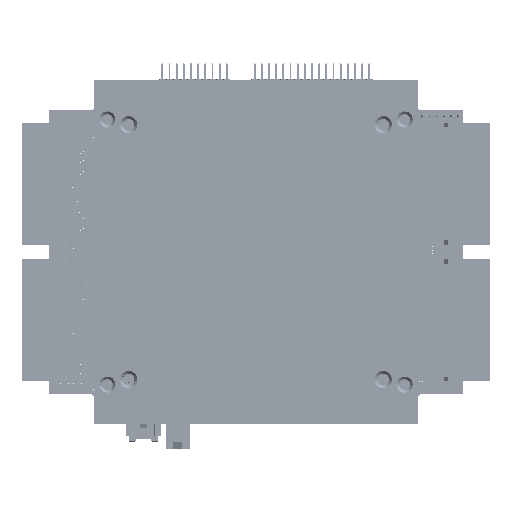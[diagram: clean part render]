
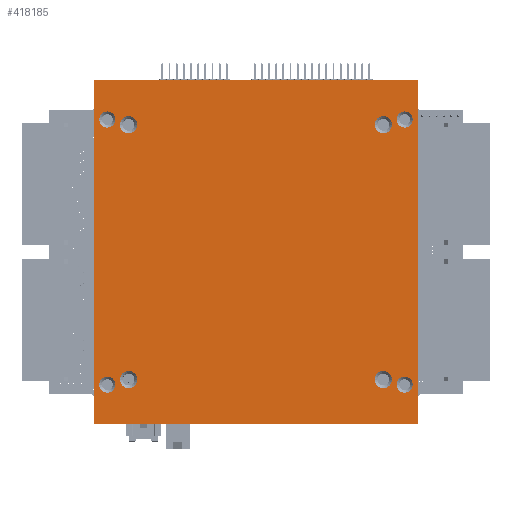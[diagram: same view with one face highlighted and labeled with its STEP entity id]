
A CAD part, top view. The second image highlights one B-rep face of the part: STEP entity #418185.
In plain terms, the highlighted planar face has unit normal (0, 0, 1).
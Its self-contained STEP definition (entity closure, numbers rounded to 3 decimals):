
#416386=CARTESIAN_POINT('',(3.581,84.95,12.7));
#416387=DIRECTION('',(0.,0.,-1.));
#416388=DIRECTION('',(1.,0.,0.));
#416389=AXIS2_PLACEMENT_3D('',#416386,#416387,#416388);
#416391=CARTESIAN_POINT('',(3.581,84.95,12.7));
#416392=DIRECTION('',(0.,0.,-1.));
#416393=DIRECTION('',(-1.,0.,0.));
#416394=AXIS2_PLACEMENT_3D('',#416391,#416392,#416393);
#416396=CARTESIAN_POINT('',(86.581,84.95,12.7));
#416397=DIRECTION('',(0.,0.,-1.));
#416398=DIRECTION('',(1.,0.,0.));
#416399=AXIS2_PLACEMENT_3D('',#416396,#416397,#416398);
#416401=CARTESIAN_POINT('',(86.581,84.95,12.7));
#416402=DIRECTION('',(0.,0.,-1.));
#416403=DIRECTION('',(-1.,0.,0.));
#416404=AXIS2_PLACEMENT_3D('',#416401,#416402,#416403);
#416406=CARTESIAN_POINT('',(80.636,83.5,12.7));
#416407=DIRECTION('',(0.,0.,-1.));
#416408=DIRECTION('',(1.,0.,0.));
#416409=AXIS2_PLACEMENT_3D('',#416406,#416407,#416408);
#416411=CARTESIAN_POINT('',(80.636,83.5,12.7));
#416412=DIRECTION('',(0.,0.,-1.));
#416413=DIRECTION('',(-1.,0.,0.));
#416414=AXIS2_PLACEMENT_3D('',#416411,#416412,#416413);
#416416=CARTESIAN_POINT('',(86.581,10.95,12.7));
#416417=DIRECTION('',(0.,0.,-1.));
#416418=DIRECTION('',(1.,0.,0.));
#416419=AXIS2_PLACEMENT_3D('',#416416,#416417,#416418);
#416421=CARTESIAN_POINT('',(86.581,10.95,12.7));
#416422=DIRECTION('',(0.,0.,-1.));
#416423=DIRECTION('',(-1.,0.,0.));
#416424=AXIS2_PLACEMENT_3D('',#416421,#416422,#416423);
#416426=CARTESIAN_POINT('',(80.636,12.38,12.7));
#416427=DIRECTION('',(0.,0.,-1.));
#416428=DIRECTION('',(1.,0.,0.));
#416429=AXIS2_PLACEMENT_3D('',#416426,#416427,#416428);
#416431=CARTESIAN_POINT('',(80.636,12.38,12.7));
#416432=DIRECTION('',(0.,0.,-1.));
#416433=DIRECTION('',(-1.,0.,0.));
#416434=AXIS2_PLACEMENT_3D('',#416431,#416432,#416433);
#416436=CARTESIAN_POINT('',(9.516,12.38,12.7));
#416437=DIRECTION('',(0.,0.,-1.));
#416438=DIRECTION('',(1.,0.,0.));
#416439=AXIS2_PLACEMENT_3D('',#416436,#416437,#416438);
#416441=CARTESIAN_POINT('',(9.516,12.38,12.7));
#416442=DIRECTION('',(0.,0.,-1.));
#416443=DIRECTION('',(-1.,0.,0.));
#416444=AXIS2_PLACEMENT_3D('',#416441,#416442,#416443);
#416446=CARTESIAN_POINT('',(3.581,10.95,12.7));
#416447=DIRECTION('',(0.,0.,-1.));
#416448=DIRECTION('',(1.,0.,0.));
#416449=AXIS2_PLACEMENT_3D('',#416446,#416447,#416448);
#416451=CARTESIAN_POINT('',(3.581,10.95,12.7));
#416452=DIRECTION('',(0.,0.,-1.));
#416453=DIRECTION('',(-1.,0.,0.));
#416454=AXIS2_PLACEMENT_3D('',#416451,#416452,#416453);
#416456=CARTESIAN_POINT('',(9.516,83.5,12.7));
#416457=DIRECTION('',(0.,0.,-1.));
#416458=DIRECTION('',(1.,0.,0.));
#416459=AXIS2_PLACEMENT_3D('',#416456,#416457,#416458);
#416461=CARTESIAN_POINT('',(9.516,83.5,12.7));
#416462=DIRECTION('',(0.,0.,-1.));
#416463=DIRECTION('',(-1.,0.,0.));
#416464=AXIS2_PLACEMENT_3D('',#416461,#416462,#416463);
#416470=DIRECTION('',(-1.,0.,0.));
#416471=VECTOR('',#416470,90.17);
#416472=CARTESIAN_POINT('',(90.17,0.,12.7));
#416473=LINE('',#416472,#416471);
#416478=DIRECTION('',(0.,1.,0.));
#416479=VECTOR('',#416478,95.885);
#416480=CARTESIAN_POINT('',(0.,0.,12.7));
#416481=LINE('',#416480,#416479);
#416700=DIRECTION('',(0.,-1.,0.));
#416701=VECTOR('',#416700,95.885);
#416702=CARTESIAN_POINT('',(90.17,95.885,12.7));
#416703=LINE('',#416702,#416701);
#416720=DIRECTION('',(1.,0.,0.));
#416721=VECTOR('',#416720,90.17);
#416722=CARTESIAN_POINT('',(0.,95.885,12.7));
#416723=LINE('',#416722,#416721);
#417925=CARTESIAN_POINT('',(0.,95.885,12.7));
#417926=VERTEX_POINT('',#417925);
#417927=CARTESIAN_POINT('',(90.17,95.885,12.7));
#417928=VERTEX_POINT('',#417927);
#417929=CARTESIAN_POINT('',(0.,0.,12.7));
#417930=VERTEX_POINT('',#417929);
#417931=CARTESIAN_POINT('',(90.17,0.,12.7));
#417932=VERTEX_POINT('',#417931);
#417933=CARTESIAN_POINT('',(7.116,83.5,12.7));
#417934=CARTESIAN_POINT('',(11.916,83.5,12.7));
#417935=VERTEX_POINT('',#417933);
#417936=VERTEX_POINT('',#417934);
#417937=CARTESIAN_POINT('',(1.331,10.95,12.7));
#417938=CARTESIAN_POINT('',(5.831,10.95,12.7));
#417939=VERTEX_POINT('',#417937);
#417940=VERTEX_POINT('',#417938);
#417941=CARTESIAN_POINT('',(7.116,12.38,12.7));
#417942=CARTESIAN_POINT('',(11.916,12.38,12.7));
#417943=VERTEX_POINT('',#417941);
#417944=VERTEX_POINT('',#417942);
#417945=CARTESIAN_POINT('',(78.236,12.38,12.7));
#417946=CARTESIAN_POINT('',(83.036,12.38,12.7));
#417947=VERTEX_POINT('',#417945);
#417948=VERTEX_POINT('',#417946);
#417949=CARTESIAN_POINT('',(84.331,10.95,12.7));
#417950=CARTESIAN_POINT('',(88.831,10.95,12.7));
#417951=VERTEX_POINT('',#417949);
#417952=VERTEX_POINT('',#417950);
#417953=CARTESIAN_POINT('',(78.236,83.5,12.7));
#417954=CARTESIAN_POINT('',(83.036,83.5,12.7));
#417955=VERTEX_POINT('',#417953);
#417956=VERTEX_POINT('',#417954);
#417957=CARTESIAN_POINT('',(84.331,84.95,12.7));
#417958=CARTESIAN_POINT('',(88.831,84.95,12.7));
#417959=VERTEX_POINT('',#417957);
#417960=VERTEX_POINT('',#417958);
#417961=CARTESIAN_POINT('',(1.331,84.95,12.7));
#417962=CARTESIAN_POINT('',(5.831,84.95,12.7));
#417963=VERTEX_POINT('',#417961);
#417964=VERTEX_POINT('',#417962);
#418124=CARTESIAN_POINT('',(90.161,95.885,12.7));
#418125=DIRECTION('',(0.,0.,1.));
#418126=DIRECTION('',(1.,0.,0.));
#418127=AXIS2_PLACEMENT_3D('',#418124,#418125,#418126);
#418128=PLANE('',#418127);
#418130=ORIENTED_EDGE('',*,*,#418129,.T.);
#418132=ORIENTED_EDGE('',*,*,#418131,.T.);
#418134=ORIENTED_EDGE('',*,*,#418133,.T.);
#418136=ORIENTED_EDGE('',*,*,#418135,.T.);
#418137=EDGE_LOOP('',(#418130,#418132,#418134,#418136));
#418138=FACE_OUTER_BOUND('',#418137,.F.);
#418139=ORIENTED_EDGE('',*,*,#418065,.F.);
#418140=ORIENTED_EDGE('',*,*,#418117,.F.);
#418141=EDGE_LOOP('',(#418139,#418140));
#418142=FACE_BOUND('',#418141,.F.);
#418144=ORIENTED_EDGE('',*,*,#418143,.F.);
#418146=ORIENTED_EDGE('',*,*,#418145,.F.);
#418147=EDGE_LOOP('',(#418144,#418146));
#418148=FACE_BOUND('',#418147,.F.);
#418150=ORIENTED_EDGE('',*,*,#418149,.F.);
#418152=ORIENTED_EDGE('',*,*,#418151,.F.);
#418153=EDGE_LOOP('',(#418150,#418152));
#418154=FACE_BOUND('',#418153,.F.);
#418156=ORIENTED_EDGE('',*,*,#418155,.F.);
#418158=ORIENTED_EDGE('',*,*,#418157,.F.);
#418159=EDGE_LOOP('',(#418156,#418158));
#418160=FACE_BOUND('',#418159,.F.);
#418162=ORIENTED_EDGE('',*,*,#418161,.F.);
#418164=ORIENTED_EDGE('',*,*,#418163,.F.);
#418165=EDGE_LOOP('',(#418162,#418164));
#418166=FACE_BOUND('',#418165,.F.);
#418168=ORIENTED_EDGE('',*,*,#418167,.F.);
#418170=ORIENTED_EDGE('',*,*,#418169,.F.);
#418171=EDGE_LOOP('',(#418168,#418170));
#418172=FACE_BOUND('',#418171,.F.);
#418174=ORIENTED_EDGE('',*,*,#418173,.F.);
#418176=ORIENTED_EDGE('',*,*,#418175,.F.);
#418177=EDGE_LOOP('',(#418174,#418176));
#418178=FACE_BOUND('',#418177,.F.);
#418180=ORIENTED_EDGE('',*,*,#418179,.F.);
#418182=ORIENTED_EDGE('',*,*,#418181,.F.);
#418183=EDGE_LOOP('',(#418180,#418182));
#418184=FACE_BOUND('',#418183,.F.);
#416390=CIRCLE('',#416389,2.25);
#416395=CIRCLE('',#416394,2.25);
#416400=CIRCLE('',#416399,2.25);
#416405=CIRCLE('',#416404,2.25);
#416410=CIRCLE('',#416409,2.4);
#416415=CIRCLE('',#416414,2.4);
#416420=CIRCLE('',#416419,2.25);
#416425=CIRCLE('',#416424,2.25);
#416430=CIRCLE('',#416429,2.4);
#416435=CIRCLE('',#416434,2.4);
#416440=CIRCLE('',#416439,2.4);
#416445=CIRCLE('',#416444,2.4);
#416450=CIRCLE('',#416449,2.25);
#416455=CIRCLE('',#416454,2.25);
#416460=CIRCLE('',#416459,2.4);
#416465=CIRCLE('',#416464,2.4);
#418065=EDGE_CURVE('',#417964,#417963,#416390,.T.);
#418117=EDGE_CURVE('',#417963,#417964,#416395,.T.);
#418129=EDGE_CURVE('',#417932,#417930,#416473,.T.);
#418131=EDGE_CURVE('',#417930,#417926,#416481,.T.);
#418133=EDGE_CURVE('',#417926,#417928,#416723,.T.);
#418135=EDGE_CURVE('',#417928,#417932,#416703,.T.);
#418143=EDGE_CURVE('',#417960,#417959,#416400,.T.);
#418145=EDGE_CURVE('',#417959,#417960,#416405,.T.);
#418149=EDGE_CURVE('',#417956,#417955,#416410,.T.);
#418151=EDGE_CURVE('',#417955,#417956,#416415,.T.);
#418155=EDGE_CURVE('',#417952,#417951,#416420,.T.);
#418157=EDGE_CURVE('',#417951,#417952,#416425,.T.);
#418161=EDGE_CURVE('',#417948,#417947,#416430,.T.);
#418163=EDGE_CURVE('',#417947,#417948,#416435,.T.);
#418167=EDGE_CURVE('',#417944,#417943,#416440,.T.);
#418169=EDGE_CURVE('',#417943,#417944,#416445,.T.);
#418173=EDGE_CURVE('',#417940,#417939,#416450,.T.);
#418175=EDGE_CURVE('',#417939,#417940,#416455,.T.);
#418179=EDGE_CURVE('',#417936,#417935,#416460,.T.);
#418181=EDGE_CURVE('',#417935,#417936,#416465,.T.);
#418185=ADVANCED_FACE('',(#418138,#418142,#418148,#418154,#418160,#418166,
#418172,#418178,#418184),#418128,.T.);
